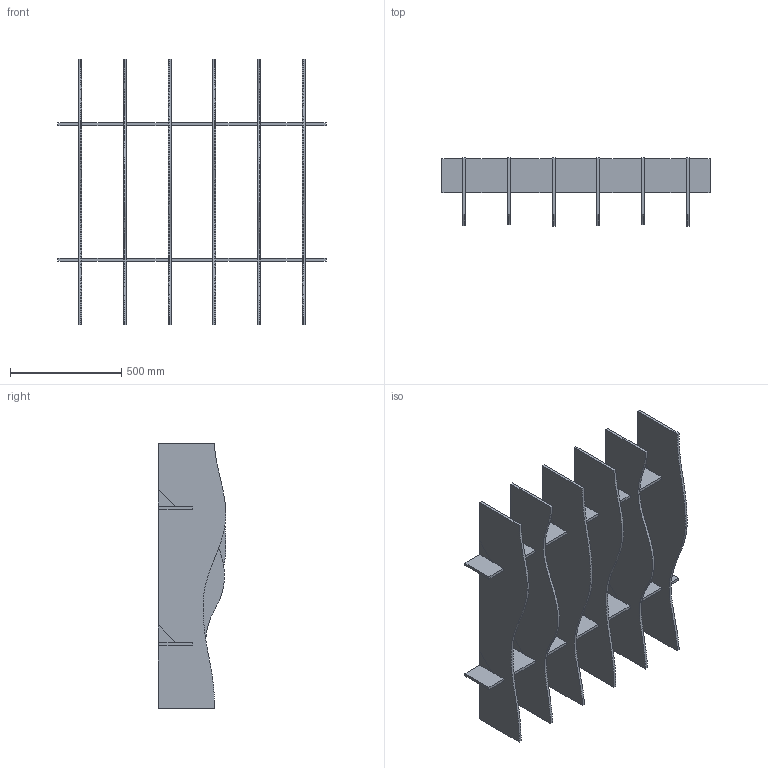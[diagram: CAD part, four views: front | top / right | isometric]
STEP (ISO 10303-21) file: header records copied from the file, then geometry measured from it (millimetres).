
FILE_DESCRIPTION(/* description */ (''),/* implementation_level */ '2;1');
FILE_NAME(/* name */ 'Y:\Design and Engineering\MaterialLogiq\CAD ASSETS\MASTER\BAFFLE\WEB ASSETS\PET BAFFLE_6FIN_4x4_10_WAVE.stp',/* time_stamp */ '2023-11-16T10:16:44-06:00',/* author */ ('Grant Baker'),/* organization */ (''),/* preprocessor_version */ 'ST-DEVELOPER v19',/* originating_system */ 'Autodesk Inventor 2023',/* authorisation */ '');
FILE_SCHEMA (('AUTOMOTIVE_DESIGN { 1 0 10303 214 3 1 1 }'));
Length unit declared in the file: inch
Products named in the file (5): PET BAFFLE_PARAMETRIC_11.02.2023; PET BAFFLE_BEAM; PET BAFFLE_48in_FIN_WAVE-1; PET BAFFLE_48in_FIN_WAVE-2; PET BAFFLE_48in_FIN_WAVE-3
Assembly tree (8 placements, depth 2):
  PET BAFFLE_PARAMETRIC_11.02.2023
    PET BAFFLE_BEAM  x2
    PET BAFFLE_48in_FIN_WAVE-1  x2
    PET BAFFLE_48in_FIN_WAVE-2  x2
    PET BAFFLE_48in_FIN_WAVE-3  x2
Bounding box: 1206.5 x 305.22 x 1193.8 mm (x, y, z)
Volume: 26284167.4 mm3; surface area: 4650172 mm2
Topology: 20 solids, 20 shells, 1170 faces, 3390 edges, 2260 vertices
Faces by surface type: plane 1170
Entity records: 19060 total; most frequent: CARTESIAN_POINT 3423, ORIENTED_EDGE 3390, DIRECTION 2891, LINE 1695, VECTOR 1695, EDGE_CURVE 1695, VERTEX_POINT 1130, AXIS2_PLACEMENT_3D 598
